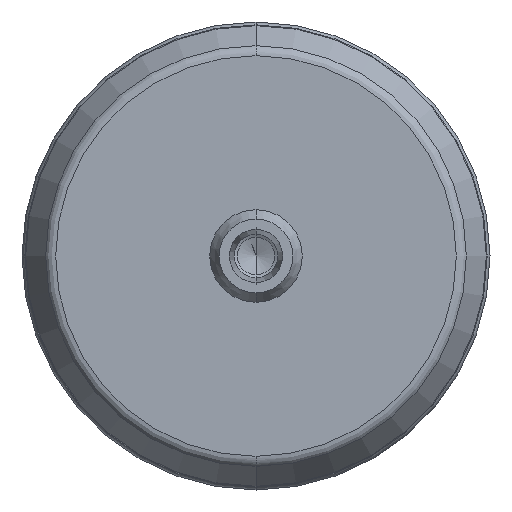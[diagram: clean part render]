
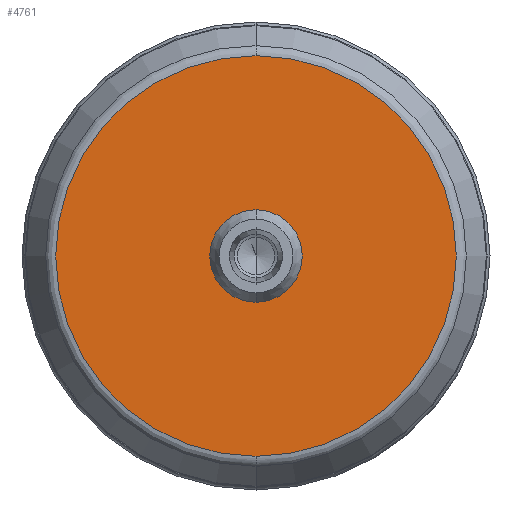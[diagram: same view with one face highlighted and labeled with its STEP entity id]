
A CAD part, front view. The second image highlights one B-rep face of the part: STEP entity #4761.
In plain terms, the highlighted planar face has unit normal (0, -1, 0).
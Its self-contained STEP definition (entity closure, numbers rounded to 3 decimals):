
#156 = CARTESIAN_POINT ( 'NONE',  ( 34.67, -17., 0. ) ) ;
#604 = ORIENTED_EDGE ( 'NONE', *, *, #1910, .F. ) ;
#957 = EDGE_CURVE ( 'NONE', #3068, #10686, #7179, .T. ) ;
#1207 = ORIENTED_EDGE ( 'NONE', *, *, #9215, .F. ) ;
#1264 = DIRECTION ( 'NONE',  ( 0., 0., -1. ) ) ;
#1444 = DIRECTION ( 'NONE',  ( 0., 0., -1. ) ) ;
#1910 = EDGE_CURVE ( 'NONE', #2416, #1923, #2684, .T. ) ;
#1923 = VERTEX_POINT ( 'NONE', #7211 ) ;
#2416 = VERTEX_POINT ( 'NONE', #10407 ) ;
#2527 = DIRECTION ( 'NONE',  ( 0., -1., 0. ) ) ;
#2684 = CIRCLE ( 'NONE', #8738, 6. ) ;
#2882 = CARTESIAN_POINT ( 'NONE',  ( 0., -17., -34.67 ) ) ;
#2982 = DIRECTION ( 'NONE',  ( 0., 0., -1. ) ) ;
#3064 = CARTESIAN_POINT ( 'NONE',  ( 0., -17., 0. ) ) ;
#3068 = VERTEX_POINT ( 'NONE', #2882 ) ;
#3098 = DIRECTION ( 'NONE',  ( 0., -1., 0. ) ) ;
#3282 = DIRECTION ( 'NONE',  ( 0., -1., 0. ) ) ;
#3455 = FACE_BOUND ( 'NONE', #7718, .T. ) ;
#3953 = EDGE_CURVE ( 'NONE', #10686, #3068, #9555, .T. ) ;
#4530 = AXIS2_PLACEMENT_3D ( 'NONE', #8631, #3098, #2982 ) ;
#4761 = ADVANCED_FACE ( 'NONE', ( #5226, #3455 ), #7580, .T. ) ;
#4907 = AXIS2_PLACEMENT_3D ( 'NONE', #156, #5993, #9308 ) ;
#4909 = EDGE_LOOP ( 'NONE', ( #8557, #9768 ) ) ;
#4944 = DIRECTION ( 'NONE',  ( 0., -1., 0. ) ) ;
#4983 = CARTESIAN_POINT ( 'NONE',  ( 0., -17., 34.67 ) ) ;
#5226 = FACE_OUTER_BOUND ( 'NONE', #4909, .T. ) ;
#5757 = DIRECTION ( 'NONE',  ( 0., 0., -1. ) ) ;
#5993 = DIRECTION ( 'NONE',  ( 0., -1., 0. ) ) ;
#6771 = AXIS2_PLACEMENT_3D ( 'NONE', #9131, #2527, #1264 ) ;
#7179 = CIRCLE ( 'NONE', #7519, 34.67 ) ;
#7211 = CARTESIAN_POINT ( 'NONE',  ( 0., -17., 6. ) ) ;
#7407 = CARTESIAN_POINT ( 'NONE',  ( 0., -17., 0. ) ) ;
#7519 = AXIS2_PLACEMENT_3D ( 'NONE', #3064, #4944, #1444 ) ;
#7580 = PLANE ( 'NONE',  #4907 ) ;
#7718 = EDGE_LOOP ( 'NONE', ( #604, #1207 ) ) ;
#8557 = ORIENTED_EDGE ( 'NONE', *, *, #957, .T. ) ;
#8631 = CARTESIAN_POINT ( 'NONE',  ( 0., -17., 0. ) ) ;
#8738 = AXIS2_PLACEMENT_3D ( 'NONE', #7407, #3282, #5757 ) ;
#9131 = CARTESIAN_POINT ( 'NONE',  ( 0., -17., 0. ) ) ;
#9215 = EDGE_CURVE ( 'NONE', #1923, #2416, #9900, .T. ) ;
#9308 = DIRECTION ( 'NONE',  ( 0., 0., -1. ) ) ;
#9555 = CIRCLE ( 'NONE', #4530, 34.67 ) ;
#9768 = ORIENTED_EDGE ( 'NONE', *, *, #3953, .T. ) ;
#9900 = CIRCLE ( 'NONE', #6771, 6. ) ;
#10407 = CARTESIAN_POINT ( 'NONE',  ( 0., -17., -6. ) ) ;
#10686 = VERTEX_POINT ( 'NONE', #4983 ) ;
